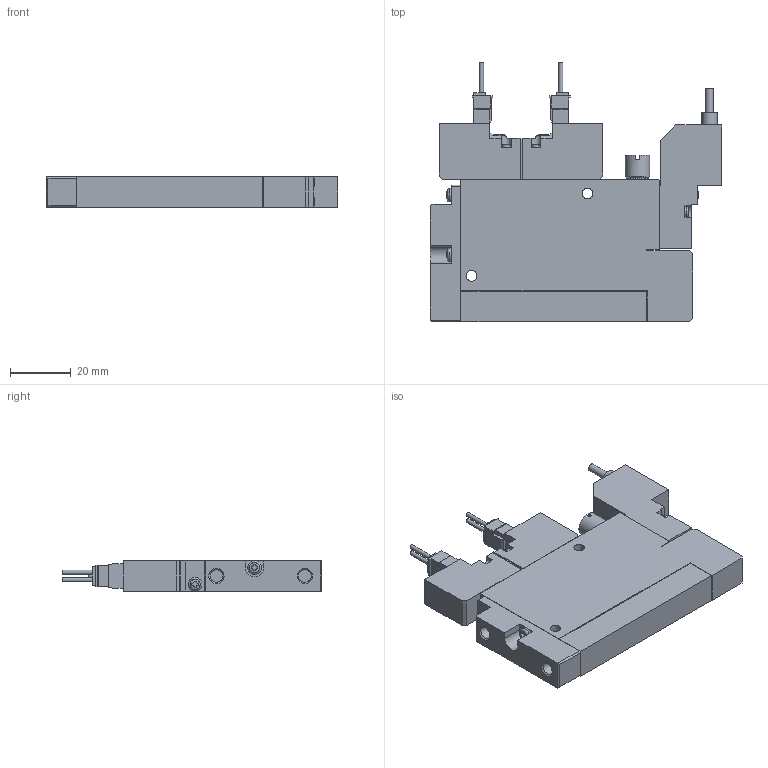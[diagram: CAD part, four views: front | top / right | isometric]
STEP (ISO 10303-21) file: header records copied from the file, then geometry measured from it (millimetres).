
FILE_DESCRIPTION(('STEP AP203'),'1');
FILE_NAME('5SC_3D.stp','2024-09-04T23:20:48',(' '),(' '),'Spatial InterOp 3D',' ',' ');
FILE_SCHEMA(('CONFIG_CONTROL_DESIGN'));
Length unit declared in the file: millimetre
Products named in the file (5): BSC1SXV8※5SC; Solenoid valve S; Pressure Sensor V8; Unit-C; BaseSC10R
Assembly tree (4 placements, depth 2):
  BSC1SXV8※5SC
    Solenoid valve S
    Pressure Sensor V8
    Unit-C
    BaseSC10R
Bounding box: 95.5 x 85.05 x 10 mm (x, y, z)
Volume: 52416 mm3; surface area: 18617.6 mm2
Topology: 4 solids, 4 shells, 397 faces, 1063 edges, 702 vertices
Faces by surface type: plane 316, cylinder 64, cone 7, torus 6, sphere 4
Full cylindrical faces by diameter (mm): 1.4 x4, 2.5 x3, 3 x4, 3.5 x6, 4.134 x4, 4.5 x2, 5 x1, 5.5 x1, 7 x1, 8 x1
Entity records: 12379 total; most frequent: CARTESIAN_POINT 2395, ORIENTED_EDGE 2004, DIRECTION 1937, EDGE_CURVE 1002, LINE 791, VECTOR 791, VERTEX_POINT 685, AXIS2_PLACEMENT_3D 573
